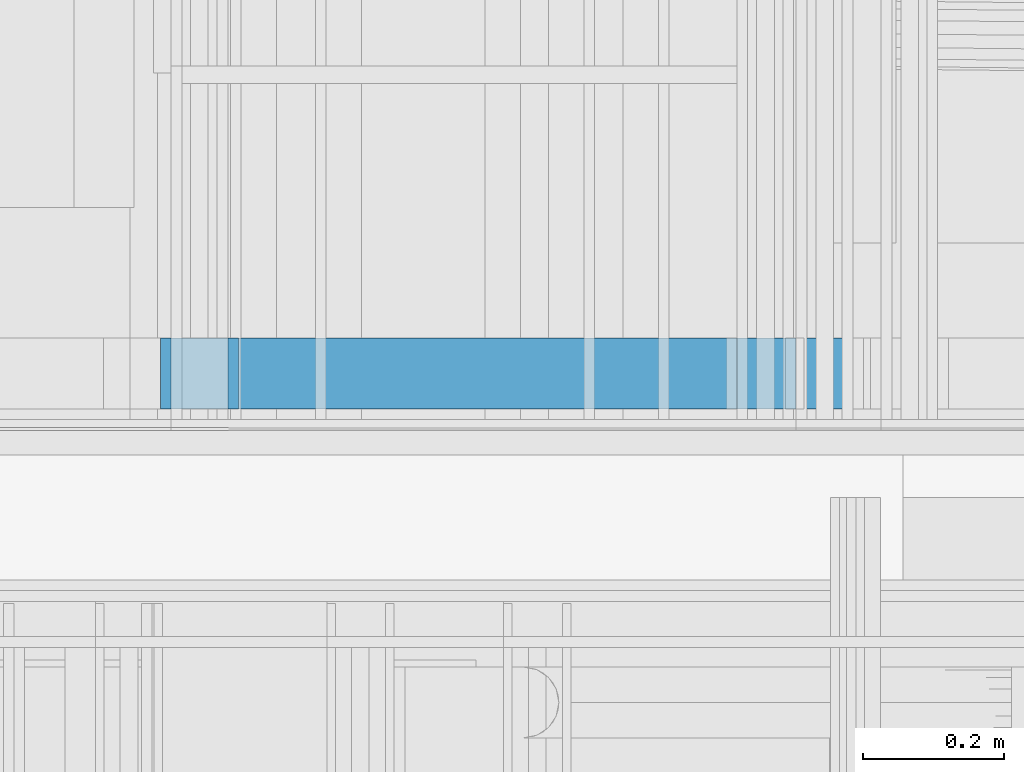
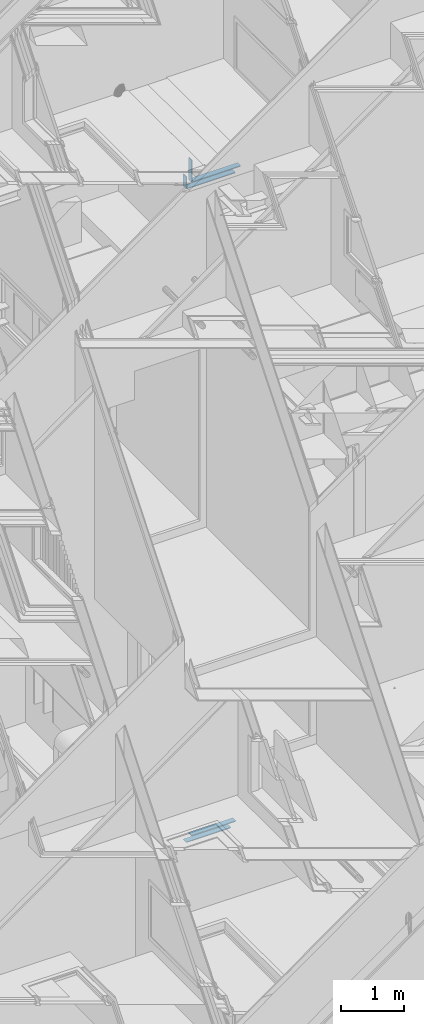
# One storey, part 240 of 583: 6 building element parts, 3 elements without a shape of their own.
"""IFC2X3 building model written with IfcOpenShell, lengths in metres."""

from ifc_helpers import new_model, entity, si_unit, converted_unit, derived_unit, money_unit, direction, frame, origin_with_axes, place, context, subcontext, project, spatial, polyline, outline, extrude, material, type_object, element, aggregate, save


model = new_model("IFC2X3")

# Units and contexts
model_context = context("Model", 3, precision=1e-05, world=origin_with_axes(), true_north=direction((0.0, 1.0)))
body_context = subcontext(model_context, "Body", "Model", "MODEL_VIEW", scale=1.0)
ifc_project = project(units=[si_unit("LENGTHUNIT", "METRE"), si_unit("AREAUNIT", "SQUARE_METRE"), si_unit("VOLUMEUNIT", "CUBIC_METRE"), si_unit("ABSORBEDDOSEUNIT", "GRAY"), si_unit("AMOUNTOFSUBSTANCEUNIT", "MOLE"), si_unit("DOSEEQUIVALENTUNIT", "SIEVERT"), si_unit("ELECTRICCAPACITANCEUNIT", "FARAD"), si_unit("ELECTRICCHARGEUNIT", "COULOMB"), si_unit("ELECTRICCONDUCTANCEUNIT", "SIEMENS"), si_unit("ELECTRICCURRENTUNIT", "AMPERE"), si_unit("ELECTRICRESISTANCEUNIT", "OHM"), si_unit("ELECTRICVOLTAGEUNIT", "VOLT"), si_unit("ENERGYUNIT", "JOULE"), si_unit("FORCEUNIT", "NEWTON"), si_unit("FREQUENCYUNIT", "HERTZ"), si_unit("ILLUMINANCEUNIT", "LUX"), si_unit("INDUCTANCEUNIT", "HENRY"), si_unit("LUMINOUSFLUXUNIT", "LUMEN"), si_unit("LUMINOUSINTENSITYUNIT", "CANDELA"), si_unit("MAGNETICFLUXDENSITYUNIT", "TESLA"), si_unit("MAGNETICFLUXUNIT", "WEBER"), si_unit("MASSUNIT", "GRAM"), converted_unit("PLANEANGLEUNIT", "degree", entity("IfcReal", 0.0174532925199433), si_unit("PLANEANGLEUNIT", "RADIAN"), dimensions=[0, 0, 0, 0, 0, 0, 0]), si_unit("POWERUNIT", "WATT"), si_unit("PRESSUREUNIT", "PASCAL"), si_unit("RADIOACTIVITYUNIT", "BECQUEREL"), si_unit("SOLIDANGLEUNIT", "STERADIAN"), si_unit("THERMODYNAMICTEMPERATUREUNIT", "KELVIN"), si_unit("TIMEUNIT", "SECOND"), derived_unit("ACCELERATIONUNIT", [(si_unit("LENGTHUNIT", "METRE"), 1), (si_unit("TIMEUNIT", "SECOND"), -2)]), derived_unit("ANGULARVELOCITYUNIT", [(converted_unit("PLANEANGLEUNIT", "degree", entity("IfcReal", 0.0174532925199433), si_unit("PLANEANGLEUNIT", "RADIAN"), dimensions=[0, 0, 0, 0, 0, 0, 0]), 1), (si_unit("TIMEUNIT", "SECOND"), -1)]), derived_unit("CURVATUREUNIT", [(converted_unit("PLANEANGLEUNIT", "degree", entity("IfcReal", 0.0174532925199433), si_unit("PLANEANGLEUNIT", "RADIAN"), dimensions=[0, 0, 0, 0, 0, 0, 0]), 1), (si_unit("LENGTHUNIT", "METRE"), -1)]), derived_unit("DYNAMICVISCOSITYUNIT", [(si_unit("PRESSUREUNIT", "PASCAL"), 1), (si_unit("TIMEUNIT", "SECOND"), 1)]), derived_unit("HEATFLUXDENSITYUNIT", [(si_unit("POWERUNIT", "WATT"), 1), (si_unit("LENGTHUNIT", "METRE"), -2)]), derived_unit("HEATINGVALUEUNIT", [(si_unit("ENERGYUNIT", "JOULE"), 1), (si_unit("MASSUNIT", "GRAM"), -1)]), derived_unit("INTEGERCOUNTRATEUNIT", [(si_unit("TIMEUNIT", "SECOND"), -1)]), derived_unit("IONCONCENTRATIONUNIT", [(si_unit("MASSUNIT", "GRAM"), 1), (si_unit("VOLUMEUNIT", "CUBIC_METRE"), -1)]), derived_unit("ISOTHERMALMOISTURECAPACITYUNIT", [(si_unit("VOLUMEUNIT", "CUBIC_METRE"), 1), (si_unit("MASSUNIT", "GRAM"), -1)]), derived_unit("KINEMATICVISCOSITYUNIT", [(si_unit("AREAUNIT", "SQUARE_METRE"), 1), (si_unit("TIMEUNIT", "SECOND"), -1)]), derived_unit("LINEARFORCEUNIT", [(si_unit("FORCEUNIT", "NEWTON"), 1), (si_unit("LENGTHUNIT", "METRE"), -1)]), derived_unit("LINEARMOMENTUNIT", [(si_unit("FORCEUNIT", "NEWTON"), 1), (si_unit("LENGTHUNIT", "METRE"), -1)]), derived_unit("LINEARSTIFFNESSUNIT", [(si_unit("FORCEUNIT", "NEWTON"), 1), (si_unit("LENGTHUNIT", "METRE"), -1)]), derived_unit("LINEARVELOCITYUNIT", [(si_unit("LENGTHUNIT", "METRE"), 1), (si_unit("TIMEUNIT", "SECOND"), -1)]), derived_unit("LUMINOUSINTENSITYDISTRIBUTIONUNIT", [(si_unit("LUMINOUSINTENSITYUNIT", "CANDELA"), 1), (si_unit("LUMINOUSFLUXUNIT", "LUMEN"), -1)]), derived_unit("MASSDENSITYUNIT", [(si_unit("MASSUNIT", "GRAM"), 1), (si_unit("VOLUMEUNIT", "CUBIC_METRE"), -1)]), derived_unit("MASSFLOWRATEUNIT", [(si_unit("MASSUNIT", "GRAM"), 1), (si_unit("TIMEUNIT", "SECOND"), -1)]), derived_unit("MASSPERLENGTHUNIT", [(si_unit("MASSUNIT", "GRAM"), 1), (si_unit("LENGTHUNIT", "METRE"), -1)]), derived_unit("MODULUSOFELASTICITYUNIT", [(si_unit("FORCEUNIT", "NEWTON"), 1), (si_unit("AREAUNIT", "SQUARE_METRE"), -1)]), derived_unit("MODULUSOFLINEARSUBGRADEREACTIONUNIT", [(si_unit("FORCEUNIT", "NEWTON"), 1), (si_unit("LENGTHUNIT", "METRE"), -2)]), derived_unit("MODULUSOFROTATIONALSUBGRADEREACTIONUNIT", [(si_unit("FORCEUNIT", "NEWTON"), 1), (si_unit("LENGTHUNIT", "METRE"), 1)]), derived_unit("MODULUSOFSUBGRADEREACTIONUNIT", [(si_unit("FORCEUNIT", "NEWTON"), 1), (si_unit("VOLUMEUNIT", "CUBIC_METRE"), -1)]), derived_unit("MOISTUREDIFFUSIVITYUNIT", [(si_unit("VOLUMEUNIT", "CUBIC_METRE"), 1), (si_unit("TIMEUNIT", "SECOND"), -1)]), derived_unit("MOLECULARWEIGHTUNIT", [(si_unit("MASSUNIT", "GRAM"), 1), (si_unit("AMOUNTOFSUBSTANCEUNIT", "MOLE"), -1)]), derived_unit("PLANARFORCEUNIT", [(si_unit("FORCEUNIT", "NEWTON"), 1), (si_unit("LENGTHUNIT", "METRE"), -2)]), derived_unit("ROTATIONALFREQUENCYUNIT", [(si_unit("TIMEUNIT", "SECOND"), -1)]), derived_unit("ROTATIONALMASSUNIT", [(si_unit("MASSUNIT", "GRAM"), 1), (si_unit("LENGTHUNIT", "METRE"), 2)]), derived_unit("ROTATIONALSTIFFNESSUNIT", [(si_unit("FORCEUNIT", "NEWTON"), 1), (si_unit("LENGTHUNIT", "METRE"), 1), (converted_unit("PLANEANGLEUNIT", "degree", entity("IfcReal", 0.0174532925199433), si_unit("PLANEANGLEUNIT", "RADIAN"), dimensions=[0, 0, 0, 0, 0, 0, 0]), -1)]), derived_unit("SECTIONAREAINTEGRALUNIT", [(si_unit("LENGTHUNIT", "METRE"), 5)]), derived_unit("SECTIONMODULUSUNIT", [(si_unit("LENGTHUNIT", "METRE"), 3)]), derived_unit("SHEARMODULUSUNIT", [(si_unit("FORCEUNIT", "NEWTON"), 1), (si_unit("AREAUNIT", "SQUARE_METRE"), -1)]), derived_unit("SOUNDPOWERUNIT", [(si_unit("ENERGYUNIT", "JOULE"), 1), (si_unit("TIMEUNIT", "SECOND"), -1)]), derived_unit("SPECIFICHEATCAPACITYUNIT", [(si_unit("FORCEUNIT", "NEWTON"), 1), (si_unit("MASSUNIT", "GRAM"), -1), (si_unit("THERMODYNAMICTEMPERATUREUNIT", "KELVIN"), -1)]), derived_unit("TEMPERATUREGRADIENTUNIT", [(si_unit("THERMODYNAMICTEMPERATUREUNIT", "KELVIN"), 1), (si_unit("LENGTHUNIT", "METRE"), -1)]), derived_unit("THERMALADMITTANCEUNIT", [(si_unit("POWERUNIT", "WATT"), 1), (si_unit("AREAUNIT", "SQUARE_METRE"), -1), (si_unit("THERMODYNAMICTEMPERATUREUNIT", "KELVIN"), -1)]), derived_unit("THERMALCONDUCTANCEUNIT", [(si_unit("POWERUNIT", "WATT"), 1), (si_unit("LENGTHUNIT", "METRE"), -1), (si_unit("THERMODYNAMICTEMPERATUREUNIT", "KELVIN"), -1)]), derived_unit("THERMALEXPANSIONCOEFFICIENTUNIT", [(si_unit("THERMODYNAMICTEMPERATUREUNIT", "KELVIN"), -1)]), derived_unit("THERMALRESISTANCEUNIT", [(si_unit("AREAUNIT", "SQUARE_METRE"), 1), (si_unit("POWERUNIT", "WATT"), -1)]), derived_unit("THERMALTRANSMITTANCEUNIT", [(si_unit("POWERUNIT", "WATT"), 1), (si_unit("AREAUNIT", "SQUARE_METRE"), -1), (si_unit("THERMODYNAMICTEMPERATUREUNIT", "KELVIN"), -1)]), derived_unit("TORQUEUNIT", [(si_unit("FORCEUNIT", "NEWTON"), 1), (si_unit("LENGTHUNIT", "METRE"), 1)]), derived_unit("VAPORPERMEABILITYUNIT", [(si_unit("MASSUNIT", "GRAM"), 1), (si_unit("TIMEUNIT", "SECOND"), -1)]), derived_unit("VOLUMETRICFLOWRATEUNIT", [(si_unit("VOLUMEUNIT", "CUBIC_METRE"), 1), (si_unit("TIMEUNIT", "SECOND"), -1)]), derived_unit("WARPINGCONSTANTUNIT", [(si_unit("LENGTHUNIT", "METRE"), 6)]), derived_unit("WARPINGMOMENTUNIT", [(si_unit("FORCEUNIT", "NEWTON"), 1), (si_unit("LENGTHUNIT", "METRE"), 2)]), money_unit("GBP")], contexts=[model_context])

# Site, building, storey
site_placement = place(None, origin_with_axes())
site = spatial("IfcSite", under=ifc_project, at=site_placement, Name="Site", CompositionType="ELEMENT")
building_placement = place(site_placement, origin_with_axes())
building = spatial("IfcBuilding", under=site, at=building_placement, Name="Building01", CompositionType="ELEMENT")
storey_placement = place(building_placement, frame((0.0, 0.0, 20.78), z_axis=(0.0, 0.0, 1.0), x_axis=(1.0, 0.0, 0.0)))
storey = spatial("IfcBuildingStorey", under=building, at=storey_placement, Name="RL", CompositionType="ELEMENT", Elevation=20.78)

# Wall, building element parts
wall_type = type_object("IfcWallType", Name="SHE_A-Walls_Type05b_Partition_80mm", PredefinedType="NOTDEFINED")
wall_1_placement = place(storey_placement, frame((10.126939, 14.98, -5.303002), z_axis=(0.0, 1.0, 0.0), x_axis=(0.0, 0.0, 1.0)))
wall_1 = element("IfcWall", 1, at=wall_1_placement, inside=storey, type_object=wall_type, Name="5B", ObjectType="SHE_A-Walls_Type05b_Partition_80mm")
ifc_material = material(Name="A_BSUK_Walls_Timber")
placement_1 = place(wall_1_placement, origin_with_axes())
building_element_part_1 = element("IfcBuildingElementPart", 2, at=placement_1, material=ifc_material, Name="2", context=body_context, shape_type="SweptSolid", body=[
    extrude(outline(polyline([(0.481442, 0.068), (0.068, 0.068), (0.053, 0.053), (0.481442, 0.053), (0.481442, 0.068)])), frame((0.0, 0.0, 0.015), z_axis=(0.0, 0.0, 1.0), x_axis=(1.0, 0.0, 0.0)), (0.0, 0.0, 1.0), 0.1),
])
building_element_part_2 = element("IfcBuildingElementPart", 3, at=placement_1, material=ifc_material, Name="5", context=body_context, shape_type="SweptSolid", body=[
    extrude(outline(polyline([(-0.027, -0.027), (-0.042, -0.042), (0.19638, -0.042), (0.19638, -0.027), (-0.027, -0.027)])), frame((0.0, 0.0, 0.015), z_axis=(0.0, 0.0, 1.0), x_axis=(1.0, 0.0, 0.0)), (0.0, 0.0, 1.0), 0.1),
])
aggregate(wall_1, [building_element_part_1, building_element_part_2])

wall_2_placement = place(storey_placement, frame((10.126939, 14.98, -17.908), z_axis=(0.0, 1.0, 0.0), x_axis=(1.0, 0.0, 0.0)))
wall_2 = element("IfcWall", 4, at=wall_2_placement, inside=storey, type_object=wall_type, Name="5B", ObjectType="SHE_A-Walls_Type05b_Partition_80mm")
placement_2 = place(wall_2_placement, origin_with_axes())
building_element_part_3 = element("IfcBuildingElementPart", 5, at=placement_2, material=ifc_material, Name="2", context=body_context, shape_type="SweptSolid", body=[
    extrude(outline(polyline([(0.852976, -0.028), (0.053, -0.028), (0.053, -0.043), (0.867976, -0.043), (0.852976, -0.028)])), frame((0.0, 0.0, 0.015), z_axis=(0.0, 0.0, 1.0), x_axis=(1.0, 0.0, 0.0)), (0.0, 0.0, 1.0), 0.1),
])
building_element_part_4 = element("IfcBuildingElementPart", 6, at=placement_2, material=ifc_material, Name="5", context=body_context, shape_type="SweptSolid", body=[
    extrude(outline(polyline([(0.757976, 0.067), (-0.042, 0.067), (-0.042, 0.052), (0.772976, 0.052), (0.757976, 0.067)])), frame((0.0, 0.0, 0.015), z_axis=(0.0, 0.0, 1.0), x_axis=(1.0, 0.0, 0.0)), (0.0, 0.0, 1.0), 0.1),
])
aggregate(wall_2, [building_element_part_3, building_element_part_4])

wall_3_placement = place(storey_placement, frame((11.011789, 14.98, -5.303002), z_axis=(0.0, 1.0, 0.0), x_axis=(-1.0, 0.0, 0.0)))
wall_3 = element("IfcWall", 7, at=wall_3_placement, inside=storey, type_object=wall_type, Name="5B", ObjectType="SHE_A-Walls_Type05b_Partition_80mm")
placement_3 = place(wall_3_placement, origin_with_axes())
building_element_part_5 = element("IfcBuildingElementPart", 8, at=placement_3, material=ifc_material, Name="2", context=body_context, shape_type="SweptSolid", body=[
    extrude(outline(polyline([(0.816849, 0.068), (-0.067, 0.068), (-0.052, 0.053), (0.831849, 0.053), (0.816849, 0.068)])), frame((0.0, 0.0, 0.015), z_axis=(0.0, 0.0, 1.0), x_axis=(1.0, 0.0, 0.0)), (0.0, 0.0, 1.0), 0.1),
])
building_element_part_6 = element("IfcBuildingElementPart", 9, at=placement_3, material=ifc_material, Name="5", context=body_context, shape_type="SweptSolid", body=[
    extrude(outline(polyline([(0.911849, -0.027), (0.028, -0.027), (0.043, -0.042), (0.926849, -0.042), (0.911849, -0.027)])), frame((0.0, 0.0, 0.015), z_axis=(0.0, 0.0, 1.0), x_axis=(1.0, 0.0, 0.0)), (0.0, 0.0, 1.0), 0.1),
])
aggregate(wall_3, [building_element_part_5, building_element_part_6])

save(model, "model.ifc")
